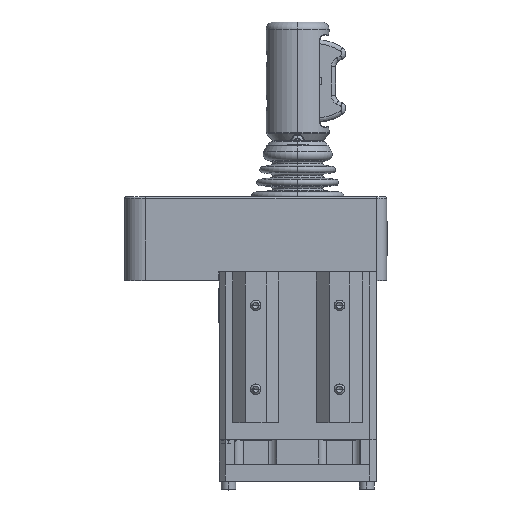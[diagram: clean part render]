
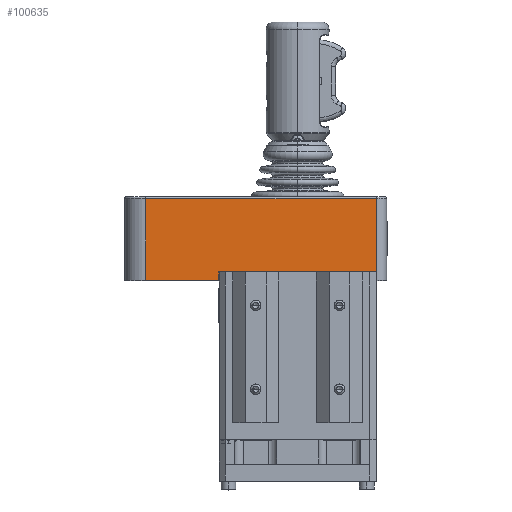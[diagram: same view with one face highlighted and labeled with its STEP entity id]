
A CAD part, top view. The second image highlights one B-rep face of the part: STEP entity #100635.
In plain terms, the highlighted planar face has unit normal (0, 0, 1).
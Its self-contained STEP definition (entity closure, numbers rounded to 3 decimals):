
#1949 = VECTOR ( 'NONE', #88919, 1000. ) ;
#2098 = DIRECTION ( 'NONE',  ( 0., -1., 0. ) ) ;
#2614 = VECTOR ( 'NONE', #43652, 1000. ) ;
#5521 = CARTESIAN_POINT ( 'NONE',  ( -72.5, 32., 73. ) ) ;
#8232 = DIRECTION ( 'NONE',  ( -1., 0., 0. ) ) ;
#8366 = CARTESIAN_POINT ( 'NONE',  ( -37.7, 36., 73. ) ) ;
#20032 = PLANE ( 'NONE',  #78068 ) ;
#23032 = CARTESIAN_POINT ( 'NONE',  ( -37.7, 32., 73. ) ) ;
#24439 = LINE ( 'NONE', #43686, #139871 ) ;
#26552 = EDGE_LOOP ( 'NONE', ( #129052, #122984, #121036, #34355, #110932, #57842 ) ) ;
#27415 = CARTESIAN_POINT ( 'NONE',  ( 37.5, 71., 73. ) ) ;
#32729 = VERTEX_POINT ( 'NONE', #68854 ) ;
#34278 = EDGE_CURVE ( 'NONE', #59413, #107059, #98321, .T. ) ;
#34355 = ORIENTED_EDGE ( 'NONE', *, *, #80989, .T. ) ;
#35547 = VERTEX_POINT ( 'NONE', #23032 ) ;
#37384 = EDGE_CURVE ( 'NONE', #91792, #61753, #124793, .T. ) ;
#37509 = LINE ( 'NONE', #8366, #2614 ) ;
#42658 = CARTESIAN_POINT ( 'NONE',  ( -82.5, 71., 73. ) ) ;
#43652 = DIRECTION ( 'NONE',  ( -1., 0., 0. ) ) ;
#43686 = CARTESIAN_POINT ( 'NONE',  ( -82.5, 32., 73. ) ) ;
#44325 = LINE ( 'NONE', #132992, #124825 ) ;
#47686 = CARTESIAN_POINT ( 'NONE',  ( -72.5, 72., 73. ) ) ;
#49410 = EDGE_CURVE ( 'NONE', #32729, #35547, #44325, .T. ) ;
#51468 = CARTESIAN_POINT ( 'NONE',  ( -82.5, 72., 73. ) ) ;
#57842 = ORIENTED_EDGE ( 'NONE', *, *, #105265, .F. ) ;
#59413 = VERTEX_POINT ( 'NONE', #112773 ) ;
#61753 = VERTEX_POINT ( 'NONE', #5521 ) ;
#68854 = CARTESIAN_POINT ( 'NONE',  ( -37.7, 36., 73. ) ) ;
#76495 = EDGE_CURVE ( 'NONE', #107059, #91792, #89317, .T. ) ;
#78068 = AXIS2_PLACEMENT_3D ( 'NONE', #51468, #107041, #8232 ) ;
#80989 = EDGE_CURVE ( 'NONE', #61753, #35547, #24439, .T. ) ;
#84277 = CARTESIAN_POINT ( 'NONE',  ( 37.5, 72., 73. ) ) ;
#84664 = CARTESIAN_POINT ( 'NONE',  ( -72.5, 71., 73. ) ) ;
#88919 = DIRECTION ( 'NONE',  ( -1., 0., 0. ) ) ;
#89317 = LINE ( 'NONE', #42658, #1949 ) ;
#91792 = VERTEX_POINT ( 'NONE', #84664 ) ;
#95470 = DIRECTION ( 'NONE',  ( 0., 1., 0. ) ) ;
#97852 = DIRECTION ( 'NONE',  ( 1., 0., 0. ) ) ;
#98321 = LINE ( 'NONE', #84277, #135209 ) ;
#100635 = ADVANCED_FACE ( 'NONE', ( #125506 ), #20032, .F. ) ;
#105265 = EDGE_CURVE ( 'NONE', #59413, #32729, #37509, .T. ) ;
#107041 = DIRECTION ( 'NONE',  ( 0., 0., -1. ) ) ;
#107059 = VERTEX_POINT ( 'NONE', #27415 ) ;
#108977 = VECTOR ( 'NONE', #2098, 1000. ) ;
#110932 = ORIENTED_EDGE ( 'NONE', *, *, #49410, .F. ) ;
#112773 = CARTESIAN_POINT ( 'NONE',  ( 37.5, 36., 73. ) ) ;
#121036 = ORIENTED_EDGE ( 'NONE', *, *, #37384, .T. ) ;
#122984 = ORIENTED_EDGE ( 'NONE', *, *, #76495, .T. ) ;
#124793 = LINE ( 'NONE', #47686, #108977 ) ;
#124825 = VECTOR ( 'NONE', #132033, 1000. ) ;
#125506 = FACE_OUTER_BOUND ( 'NONE', #26552, .T. ) ;
#129052 = ORIENTED_EDGE ( 'NONE', *, *, #34278, .T. ) ;
#132033 = DIRECTION ( 'NONE',  ( 0., -1., 0. ) ) ;
#132992 = CARTESIAN_POINT ( 'NONE',  ( -37.7, 36., 73. ) ) ;
#135209 = VECTOR ( 'NONE', #95470, 1000. ) ;
#139871 = VECTOR ( 'NONE', #97852, 1000. ) ;
